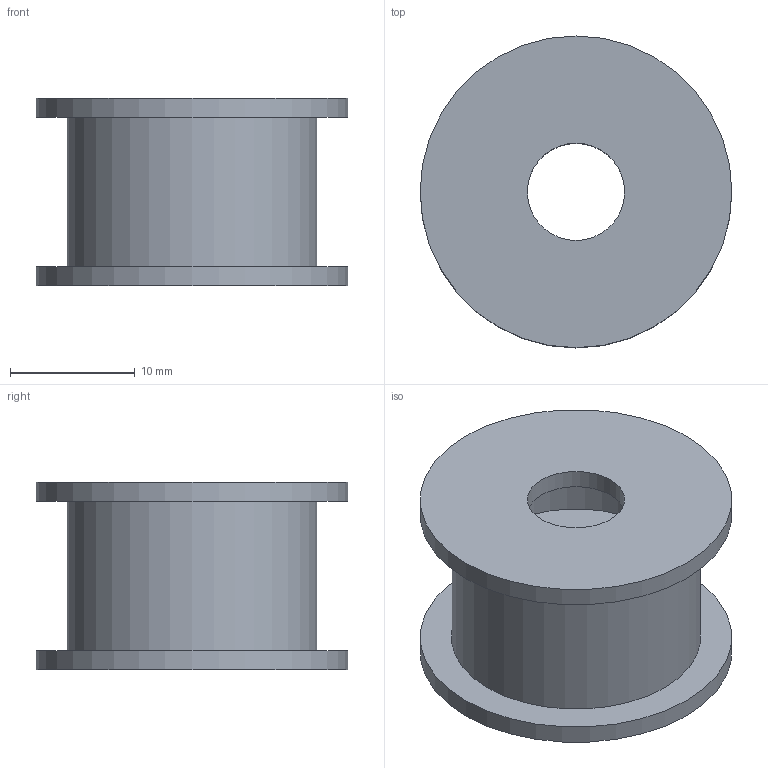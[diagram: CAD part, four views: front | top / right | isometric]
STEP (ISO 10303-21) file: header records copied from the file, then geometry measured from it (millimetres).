
FILE_DESCRIPTION(('Open CASCADE Model'),'2;1');
FILE_NAME('Open CASCADE Shape Model','2026-10-21T12:04:46',('Author'),( 'Open CASCADE'),'Open CASCADE STEP processor 7.9','Open CASCADE 7.9' ,'Unknown');
FILE_SCHEMA(('AUTOMOTIVE_DESIGN { 1 0 10303 214 1 1 1 1 }'));
Length unit declared in the file: millimetre
Products named in the file (1): Open CASCADE STEP translator 7.9 14
Bounding box: 25 x 25 x 15 mm (x, y, z)
Volume: 2933.5 mm3; surface area: 3486.5 mm2
Topology: 1 solids, 1 shells, 16 faces, 24 edges, 16 vertices
Faces by surface type: cylinder 8, plane 8
Full cylindrical faces by diameter (mm): 7.8 x3, 16.1 x2, 20 x1, 25 x2
Entity records: 708 total; most frequent: CARTESIAN_POINT 141, DIRECTION 116, ORIENTED_EDGE 48, PCURVE 48, DEFINITIONAL_REPRESENTATION 48, LINE 40, VECTOR 40, AXIS2_PLACEMENT_3D 33
